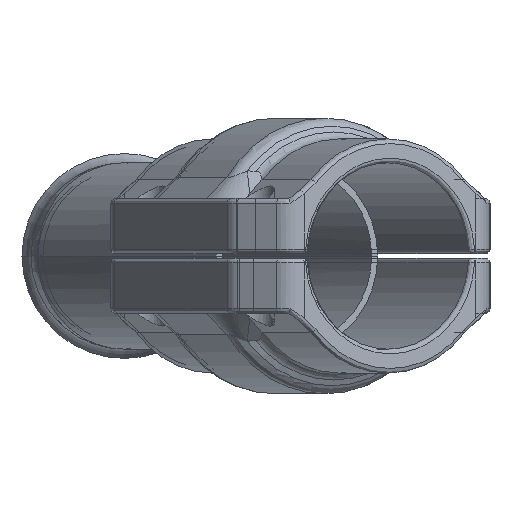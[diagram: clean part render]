
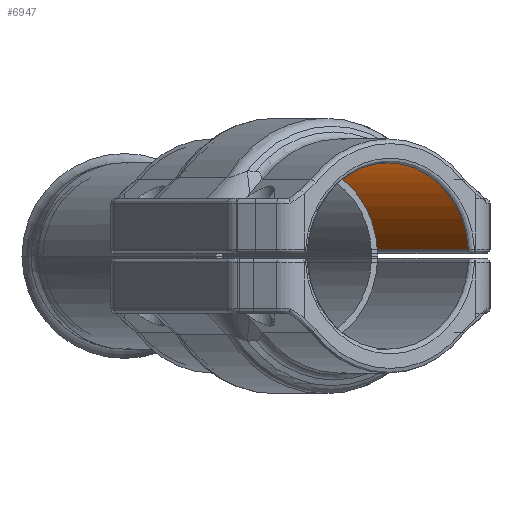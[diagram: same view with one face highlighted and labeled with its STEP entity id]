
A CAD part, left-side view. The second image highlights one B-rep face of the part: STEP entity #6947.
In plain terms, the highlighted cylindrical face has radius 20.25 mm (diameter 40.5 mm), a partial arc.
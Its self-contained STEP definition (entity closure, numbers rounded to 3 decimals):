
#4602=DIRECTION('',(-1.,0.,0.));
#4603=VECTOR('',#4602,76.);
#4604=CARTESIAN_POINT('',(38.,20.199,1.429));
#4605=LINE('',#4604,#4603);
#4609=CARTESIAN_POINT('',(-38.,0.,0.));
#4610=DIRECTION('',(1.,0.,0.));
#4611=DIRECTION('',(0.,0.998,0.071));
#4612=AXIS2_PLACEMENT_3D('',#4609,#4610,#4611);
#4617=DIRECTION('',(1.,0.,0.));
#4618=VECTOR('',#4617,76.);
#4619=CARTESIAN_POINT('',(-38.,-20.199,1.429));
#4620=LINE('',#4619,#4618);
#4624=CARTESIAN_POINT('',(38.,0.,0.));
#4625=DIRECTION('',(-1.,0.,0.));
#4626=DIRECTION('',(0.,-0.998,0.071));
#4627=AXIS2_PLACEMENT_3D('',#4624,#4625,#4626);
#5052=CARTESIAN_POINT('',(38.,20.199,1.429));
#5053=CARTESIAN_POINT('',(-38.,20.199,1.429));
#5054=VERTEX_POINT('',#5052);
#5055=VERTEX_POINT('',#5053);
#5060=CARTESIAN_POINT('',(-38.,-20.199,1.429));
#5061=VERTEX_POINT('',#5060);
#5066=CARTESIAN_POINT('',(38.,-20.199,1.429));
#5067=VERTEX_POINT('',#5066);
#6935=CARTESIAN_POINT('',(39.,0.,0.));
#6936=DIRECTION('',(-1.,0.,0.));
#6937=DIRECTION('',(0.,0.,1.));
#6938=AXIS2_PLACEMENT_3D('',#6935,#6936,#6937);
#6939=CYLINDRICAL_SURFACE('',#6938,20.25);
#6940=ORIENTED_EDGE('',*,*,#6379,.T.);
#6941=ORIENTED_EDGE('',*,*,#6310,.T.);
#6943=ORIENTED_EDGE('',*,*,#6942,.T.);
#6944=ORIENTED_EDGE('',*,*,#6617,.T.);
#6945=EDGE_LOOP('',(#6940,#6941,#6943,#6944));
#6946=FACE_OUTER_BOUND('',#6945,.F.);
#4613=CIRCLE('',#4612,20.25);
#4628=CIRCLE('',#4627,20.25);
#6310=EDGE_CURVE('',#5055,#5061,#4613,.T.);
#6379=EDGE_CURVE('',#5054,#5055,#4605,.T.);
#6617=EDGE_CURVE('',#5067,#5054,#4628,.T.);
#6942=EDGE_CURVE('',#5061,#5067,#4620,.T.);
#6947=ADVANCED_FACE('',(#6946),#6939,.F.);
